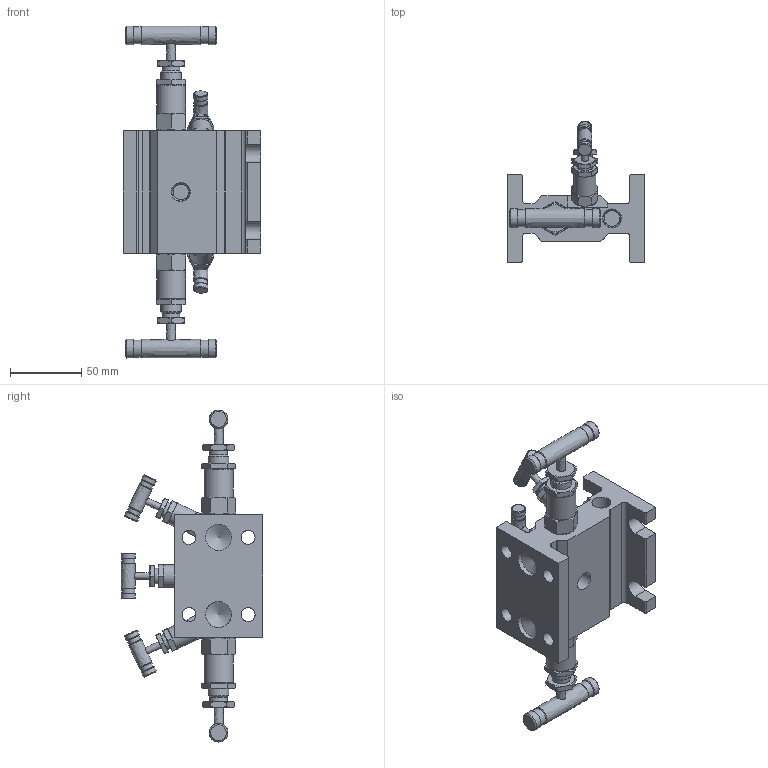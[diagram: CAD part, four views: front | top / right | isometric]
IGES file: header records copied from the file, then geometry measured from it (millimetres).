
Global section: file name: SM5VDF-SFS-S316; native system: Autodesk Inventor 2016; preprocessor: unknown; author: 이승민,,11,0; organization: 20161214.073328; date: 20161216.192427; units: millimetre
Bounding box: 96.4 x 99.22 x 232.52 mm (x, y, z)
Volume: 338741.7 mm3; surface area: 73505.2 mm2
Topology: 6 solids, 6 shells, 509 faces, 1283 edges, 842 vertices
Faces by surface type: bspline 509
